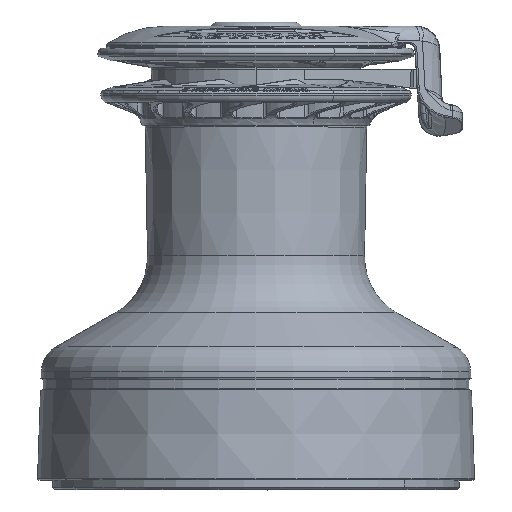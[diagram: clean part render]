
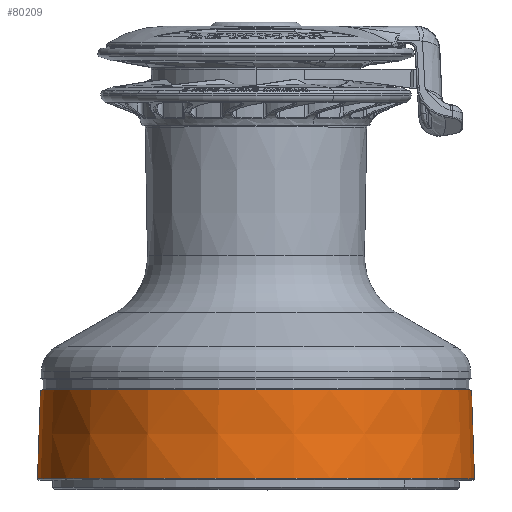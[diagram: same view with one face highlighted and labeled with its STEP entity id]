
A CAD part, top view. The second image highlights one B-rep face of the part: STEP entity #80209.
In plain terms, the highlighted conical face has half-angle 2 degrees and reference radius 73.458 mm.
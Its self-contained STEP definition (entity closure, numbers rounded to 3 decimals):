
#1903=CARTESIAN_POINT('',(0.,33.725,0.));
#1904=DIRECTION('',(0.,-1.,0.));
#1905=DIRECTION('',(1.,0.,0.));
#1906=AXIS2_PLACEMENT_3D('',#1903,#1904,#1905);
#1908=CARTESIAN_POINT('',(0.,3.742,0.));
#1909=DIRECTION('',(0.,1.,0.));
#1910=DIRECTION('',(-1.,0.,0.));
#1911=AXIS2_PLACEMENT_3D('',#1908,#1909,#1910);
#1918=DIRECTION('',(0.035,0.999,0.));
#1919=VECTOR('',#1918,30.001);
#1920=CARTESIAN_POINT('',(-73.982,3.742,
0.));
#1921=LINE('',#1920,#1919);
#1927=DIRECTION('',(-0.035,0.999,0.));
#1928=VECTOR('',#1927,30.001);
#1929=CARTESIAN_POINT('',(73.982,3.742,
0.));
#1930=LINE('',#1929,#1928);
#71864=CARTESIAN_POINT('',(-73.982,3.742,0.));
#71865=CARTESIAN_POINT('',(73.982,3.742,
0.));
#71866=VERTEX_POINT('',#71864);
#71867=VERTEX_POINT('',#71865);
#71876=CARTESIAN_POINT('',(72.935,33.725,0.));
#71877=CARTESIAN_POINT('',(-72.935,33.725,0.));
#71878=VERTEX_POINT('',#71876);
#71879=VERTEX_POINT('',#71877);
#80195=CARTESIAN_POINT('',(0.,18.734,0.));
#80196=DIRECTION('',(0.,-1.,0.));
#80197=DIRECTION('',(-1.,0.,0.));
#80198=AXIS2_PLACEMENT_3D('',#80195,#80196,#80197);
#80199=CONICAL_SURFACE('',#80198,73.458,2.);
#80200=ORIENTED_EDGE('',*,*,#80183,.F.);
#80202=ORIENTED_EDGE('',*,*,#80201,.F.);
#80204=ORIENTED_EDGE('',*,*,#80203,.F.);
#80206=ORIENTED_EDGE('',*,*,#80205,.T.);
#80207=EDGE_LOOP('',(#80200,#80202,#80204,#80206));
#80208=FACE_OUTER_BOUND('',#80207,.F.);
#80209=ADVANCED_FACE('',(#80208),#80199,.T.);
#1907=CIRCLE('',#1906,72.935);
#1912=CIRCLE('',#1911,73.982);
#80183=EDGE_CURVE('',#71878,#71879,#1907,.T.);
#80201=EDGE_CURVE('',#71867,#71878,#1930,.T.);
#80203=EDGE_CURVE('',#71866,#71867,#1912,.T.);
#80205=EDGE_CURVE('',#71866,#71879,#1921,.T.);
